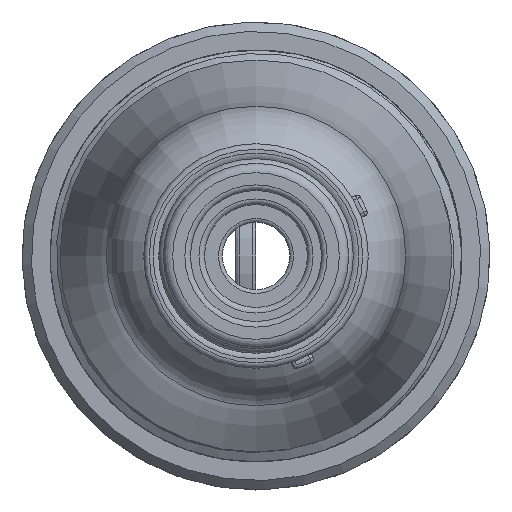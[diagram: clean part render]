
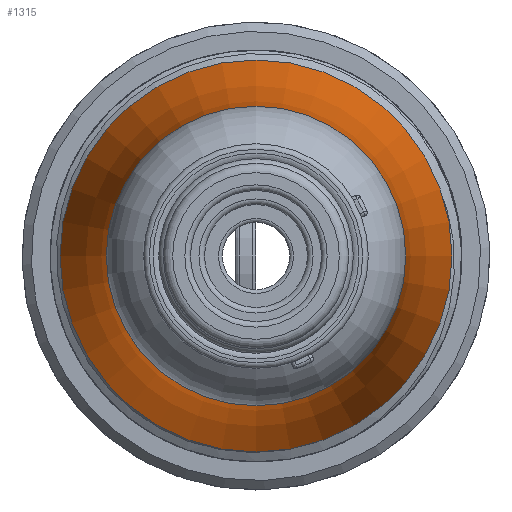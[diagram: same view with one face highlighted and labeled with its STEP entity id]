
A CAD part, left-side view. The second image highlights one B-rep face of the part: STEP entity #1315.
In plain terms, the highlighted toroidal (fillet/blend) face has major radius 53 mm and minor radius 45 mm.
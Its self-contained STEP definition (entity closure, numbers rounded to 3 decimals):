
#1315 = ADVANCED_FACE( '', ( #2971, #2972 ), #2973, .F. );
#2971 = FACE_OUTER_BOUND( '', #5565, .T. );
#2972 = FACE_OUTER_BOUND( '', #5566, .T. );
#2973 = TOROIDAL_SURFACE( '', #5567, 53., 45. );
#5565 = EDGE_LOOP( '', ( #9729 ) );
#5566 = EDGE_LOOP( '', ( #9730 ) );
#5567 = AXIS2_PLACEMENT_3D( '', #9731, #9732, #9733 );
#9729 = ORIENTED_EDGE( '', *, *, #13299, .F. );
#9730 = ORIENTED_EDGE( '', *, *, #12893, .T. );
#9731 = CARTESIAN_POINT( '', ( -24.842, 0., 0. ) );
#9732 = DIRECTION( '', ( -1., 0., 0. ) );
#9733 = DIRECTION( '', ( 0., 0., 1. ) );
#12893 = EDGE_CURVE( '', #15373, #15373, #15374, .T. );
#13299 = EDGE_CURVE( '', #15935, #15935, #15936, .T. );
#15373 = VERTEX_POINT( '', #19940 );
#15374 = CIRCLE( '', #19941, 10.469 );
#15935 = VERTEX_POINT( '', #20925 );
#15936 = CIRCLE( '', #20926, 8. );
#19940 = CARTESIAN_POINT( '', ( -10.14, 0., 10.469 ) );
#19941 = AXIS2_PLACEMENT_3D( '', #23585, #23586, #23587 );
#20925 = CARTESIAN_POINT( '', ( -25.013, 0., 8. ) );
#20926 = AXIS2_PLACEMENT_3D( '', #24071, #24072, #24073 );
#23585 = CARTESIAN_POINT( '', ( -10.14, 0., 0. ) );
#23586 = DIRECTION( '', ( -1., 0., 0. ) );
#23587 = DIRECTION( '', ( 0., 0., 1. ) );
#24071 = CARTESIAN_POINT( '', ( -25.013, 0., 0. ) );
#24072 = DIRECTION( '', ( -1., 0., 0. ) );
#24073 = DIRECTION( '', ( 0., 0., 1. ) );
